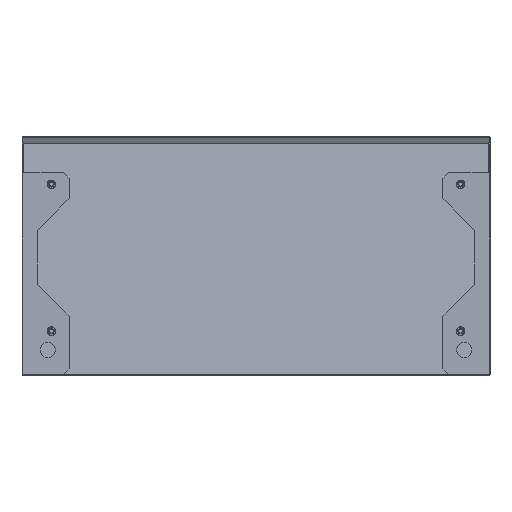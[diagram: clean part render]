
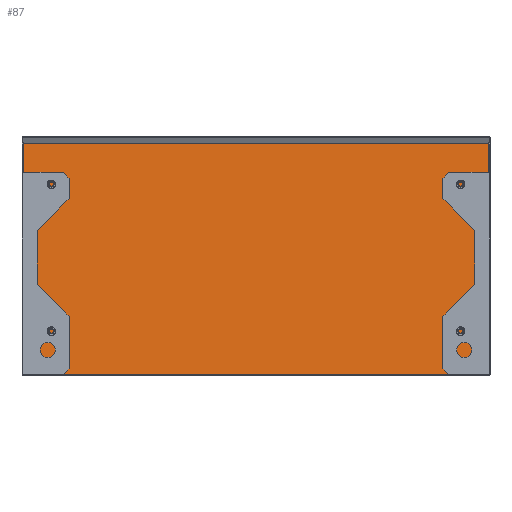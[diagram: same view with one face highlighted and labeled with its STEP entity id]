
A CAD part, front view. The second image highlights one B-rep face of the part: STEP entity #87.
In plain terms, the highlighted planar face has unit normal (0, -0.997, 0.081).
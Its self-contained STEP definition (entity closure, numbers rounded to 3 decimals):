
#87 = ADVANCED_FACE ( 'NONE', ( #1054 ), #3092, .F. ) ;
#509 = VECTOR ( 'NONE', #1418, 1000. ) ;
#511 = VECTOR ( 'NONE', #1415, 1000. ) ;
#513 = VECTOR ( 'NONE', #1412, 1000. ) ;
#514 = VECTOR ( 'NONE', #1409, 1000. ) ;
#1050 = AXIS2_PLACEMENT_3D ( 'NONE', #3093, #3094, #3095 ) ;
#1054 = FACE_OUTER_BOUND ( 'NONE', #1831, .T. ) ;
#1140 = CARTESIAN_POINT ( 'NONE',  ( -2., 57.232, 401.262 ) ) ;
#1141 = CARTESIAN_POINT ( 'NONE',  ( -2., 24.953, 1.952 ) ) ;
#1142 = CARTESIAN_POINT ( 'NONE',  ( -808., 57.232, 401.262 ) ) ;
#1143 = CARTESIAN_POINT ( 'NONE',  ( -808., 24.953, 1.952 ) ) ;
#1407 = LINE ( 'NONE', #1408, #514 ) ;
#1408 = CARTESIAN_POINT ( 'NONE',  ( -810., 24.953, 1.952 ) ) ;
#1409 = DIRECTION ( 'NONE',  ( -1., 0., 0. ) ) ;
#1410 = LINE ( 'NONE', #1411, #513 ) ;
#1411 = CARTESIAN_POINT ( 'NONE',  ( -808., 57.375, 403.026 ) ) ;
#1412 = DIRECTION ( 'NONE',  ( 0., 0.081, 0.997 ) ) ;
#1413 = LINE ( 'NONE', #1414, #511 ) ;
#1414 = CARTESIAN_POINT ( 'NONE',  ( -2., 57.375, 403.026 ) ) ;
#1415 = DIRECTION ( 'NONE',  ( 0., -0.081, -0.997 ) ) ;
#1416 = LINE ( 'NONE', #1417, #509 ) ;
#1417 = CARTESIAN_POINT ( 'NONE',  ( -810., 57.232, 401.262 ) ) ;
#1418 = DIRECTION ( 'NONE',  ( 1., 0., 0. ) ) ;
#1831 = EDGE_LOOP ( 'NONE', ( #2034, #2036, #2035, #2037 ) ) ;
#2034 = ORIENTED_EDGE ( 'NONE', *, *, #4088, .F. ) ;
#2035 = ORIENTED_EDGE ( 'NONE', *, *, #4089, .F. ) ;
#2036 = ORIENTED_EDGE ( 'NONE', *, *, #4087, .F. ) ;
#2037 = ORIENTED_EDGE ( 'NONE', *, *, #4090, .F. ) ;
#2759 = VERTEX_POINT ( 'NONE', #1140 ) ;
#2760 = VERTEX_POINT ( 'NONE', #1141 ) ;
#2761 = VERTEX_POINT ( 'NONE', #1142 ) ;
#2762 = VERTEX_POINT ( 'NONE', #1143 ) ;
#3092 = PLANE ( 'NONE',  #1050 ) ;
#3093 = CARTESIAN_POINT ( 'NONE',  ( -810., 57.375, 403.026 ) ) ;
#3094 = DIRECTION ( 'NONE',  ( 0., 0.997, -0.081 ) ) ;
#3095 = DIRECTION ( 'NONE',  ( 0., 0.081, 0.997 ) ) ;
#4087 = EDGE_CURVE ( 'NONE', #2760, #2762, #1407, .T. ) ;
#4088 = EDGE_CURVE ( 'NONE', #2762, #2761, #1410, .T. ) ;
#4089 = EDGE_CURVE ( 'NONE', #2759, #2760, #1413, .T. ) ;
#4090 = EDGE_CURVE ( 'NONE', #2761, #2759, #1416, .T. ) ;
